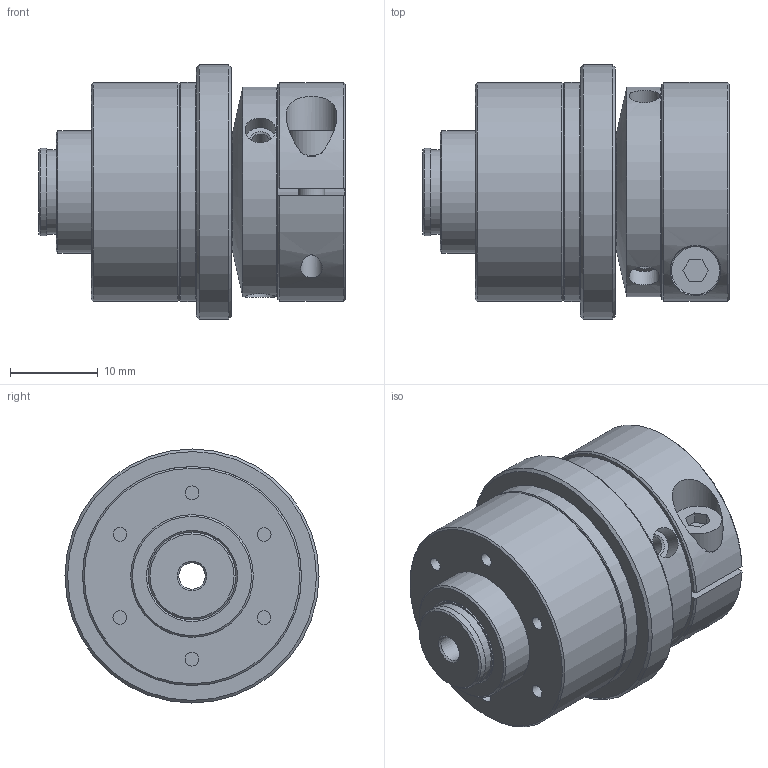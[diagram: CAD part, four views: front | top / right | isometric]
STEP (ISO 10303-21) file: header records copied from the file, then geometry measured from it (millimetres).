
FILE_DESCRIPTION( ( 'Unknown' ), '1' );
FILE_NAME( 'C:/Users/TWalzel/Documents/CAD-Daten/KBK-CK/2/KBK CK-2.stp', 'Unknown', ( 'Unknown' ), ( 'Unknown' ), 'PSStep 16.0.42', 'Unknown', ' ' );
FILE_SCHEMA( ( 'AUTOMOTIVE_DESIGN { 1 0 10303 214 1 1 1 1 }' ) );
Length unit declared in the file: millimetre
Products named in the file (11): Klemmnabe 2; Zylinderschraube DIN 912_0; Druckring 2; Stellring 2; Assem1; Flansch-Gleitlager  CK-2; Grundkörper CK-2_1
Assembly tree (10 placements, depth 3):
  Assem1
    Flansch-Gleitlager  CK-2
    Grundkörper CK-2_1
    Klemmnabe 2
      Klemmnabe 2
    Stellring 2
      Stellring 2
    Druckring 2
      Druckring 2
    Zylinderschraube DIN 912_0
      Zylinderschraube DIN 912_0
Bounding box: 35 x 29 x 29 mm (x, y, z)
Volume: 13762.1 mm3; surface area: 9637.4 mm2
Topology: 6 solids, 6 shells, 113 faces, 235 edges, 151 vertices
Faces by surface type: cylinder 42, plane 40, cone 29, torus 2
Full cylindrical faces by diameter (mm): 1.567 x12, 2.013 x3, 2.459 x1, 3 x2, 3.2 x1, 3.5 x3, 5.5 x1, 9.6 x1, 10 x3, 12 x1, 13 x2, 14 x1, 17 x1, 24 x1, 25 x2, 26 x1, 29 x1
Entity records: 4042 total; most frequent: CARTESIAN_POINT 778, DIRECTION 502, ORIENTED_EDGE 310, AXIS2_PLACEMENT_3D 228, EDGE_LOOP 211, EDGE_CURVE 155, FACE_OUTER_BOUND 152, VERTEX_POINT 134
